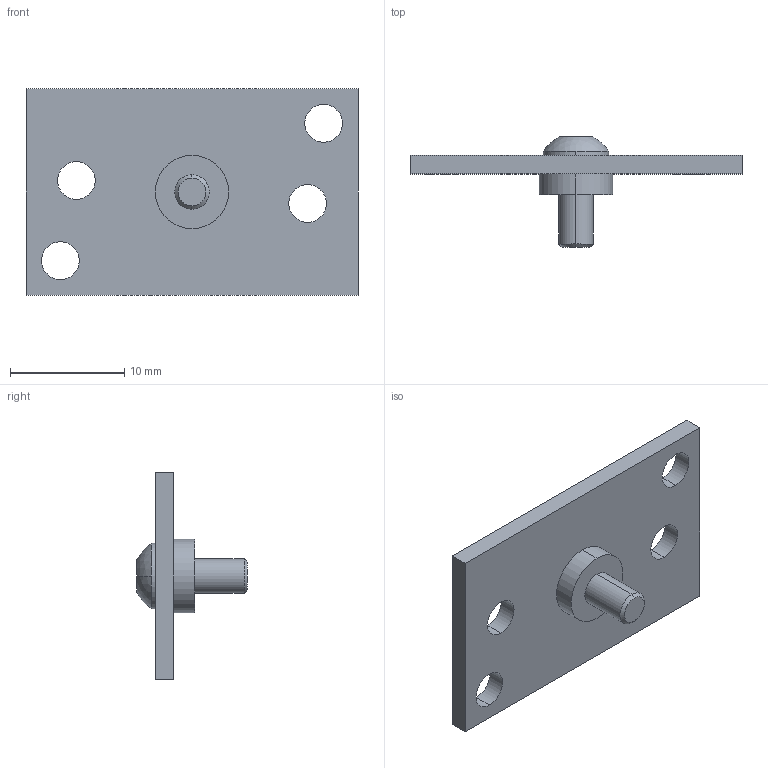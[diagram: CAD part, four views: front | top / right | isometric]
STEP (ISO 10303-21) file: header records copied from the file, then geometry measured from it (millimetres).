
FILE_DESCRIPTION (( 'STEP AP214' ), '1' );
FILE_NAME ('On_Off_Switch.STEP', '2023-01-08T13:00:43', ( '' ), ( '' ), 'SwSTEP 2.0', 'SolidWorks 2021', '' );
FILE_SCHEMA (( 'AUTOMOTIVE_DESIGN' ));
Length unit declared in the file: millimetre
Products named in the file (4): Mutter^On_Off_Switch; Platine; On_Off_Switch; socket button head screw_iso_ISO 7380 - M3 x 8 - 8N
Assembly tree (3 placements, depth 2):
  On_Off_Switch
    Platine
    Mutter^On_Off_Switch
    socket button head screw_iso_ISO 7380 - M3 x 8 - 8N
Bounding box: 29 x 9.65 x 18 mm (x, y, z)
Volume: 893.3 mm3; surface area: 1458.2 mm2
Topology: 3 solids, 3 shells, 52 faces, 120 edges, 75 vertices
Faces by surface type: plane 24, cylinder 20, cone 4, torus 2, sphere 2
Entity records: 1650 total; most frequent: DIRECTION 292, CARTESIAN_POINT 251, ORIENTED_EDGE 236, EDGE_CURVE 118, AXIS2_PLACEMENT_3D 116, VERTEX_POINT 75, EDGE_LOOP 67, LINE 60
